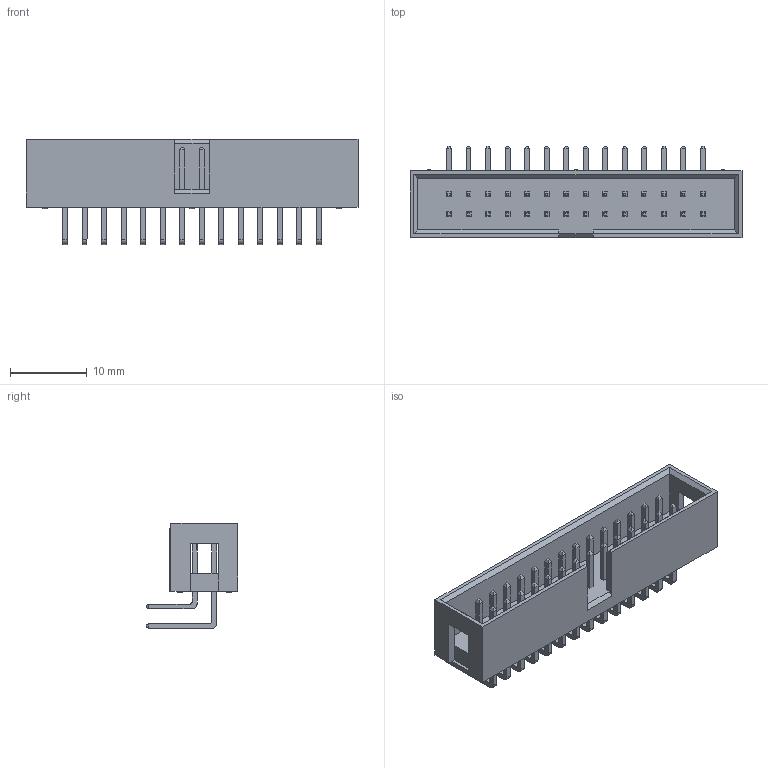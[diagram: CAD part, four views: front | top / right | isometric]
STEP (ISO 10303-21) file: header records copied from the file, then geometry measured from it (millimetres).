
FILE_DESCRIPTION (( 'STEP AP203' ), '1' );
FILE_NAME ('HC-JN254-2-14-W-8.8-XX (潠籟2.54 邧齬 俔渀-HCTL).STEP', '2025-08-14T07:55:45', ( '' ), ( '' ), 'SwSTEP 2.0', 'SolidWorks 2025', '' );
FILE_SCHEMA (( 'CONFIG_CONTROL_DESIGN' ));
Length unit declared in the file: millimetre
Products named in the file (1): HC-JN254-2-14-W-8.8-XX (简牛2.54 双排 弯针-HCTL)
Bounding box: 43.16 x 11.9 x 13.66 mm (x, y, z)
Volume: 1605.9 mm3; surface area: 3414.3 mm2
Topology: 1 solids, 1 shells, 792 faces, 1884 edges, 1108 vertices
Faces by surface type: plane 709, cylinder 71, bspline 12
Entity records: 22279 total; most frequent: CARTESIAN_POINT 4133, ORIENTED_EDGE 3768, DIRECTION 3544, EDGE_CURVE 1884, LINE 1674, VECTOR 1674, VERTEX_POINT 1108, AXIS2_PLACEMENT_3D 935
